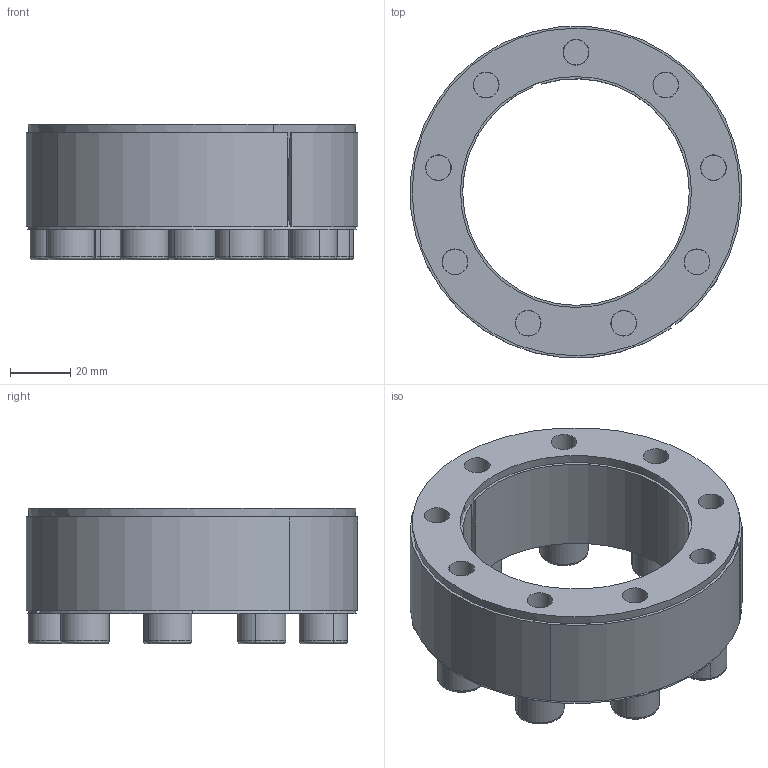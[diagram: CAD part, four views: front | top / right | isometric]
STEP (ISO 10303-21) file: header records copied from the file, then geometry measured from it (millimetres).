
FILE_DESCRIPTION (( 'STEP AP214' ), '1' );
FILE_NAME ('CONEX-L-75x110.step', '2013-04-06T13:23:21', ( 'Pc' ), ( '' ), 'SwSTEP 2.0', 'SolidWorks 2013', '' );
FILE_SCHEMA (( 'AUTOMOTIVE_DESIGN' ));
Length unit declared in the file: millimetre
Products named in the file (1): CONEX-L-75x110
Bounding box: 109.72 x 109.65 x 45.03 mm (x, y, z)
Volume: 169775.3 mm3; surface area: 88663.4 mm2
Topology: 12 solids, 12 shells, 318 faces, 727 edges, 433 vertices
Faces by surface type: plane 146, cylinder 84, cone 52, torus 36
Entity records: 12541 total; most frequent: DIRECTION 1680, CARTESIAN_POINT 1497, ORIENTED_EDGE 1418, EDGE_CURVE 709, AXIS2_PLACEMENT_3D 660, VERTEX_POINT 433, EDGE_LOOP 380, VECTOR 360
